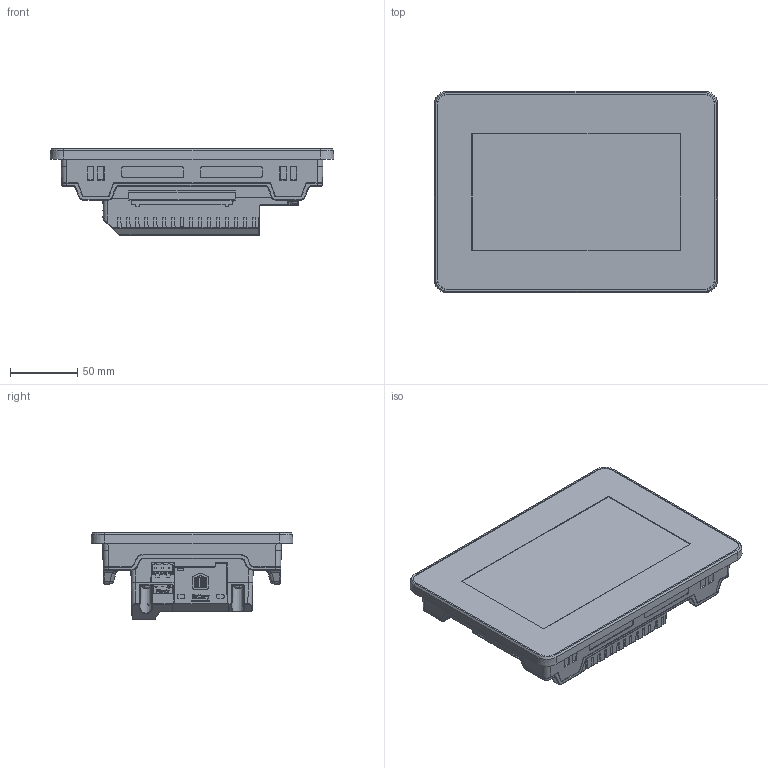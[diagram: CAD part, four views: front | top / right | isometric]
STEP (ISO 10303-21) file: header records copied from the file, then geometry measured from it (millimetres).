
FILE_DESCRIPTION (( 'STEP AP203' ), '1' );
FILE_NAME ('Unistream 7_3D.STEP', '2018-08-23T10:06:09', ( '' ), ( '' ), 'SwSTEP 2.0', 'SolidWorks 2017', '' );
FILE_SCHEMA (( 'CONFIG_CONTROL_DESIGN' ));
Products named in the file (1): Unistream 7_3D
Bounding box: 211.53 x 150.53 x 64.5 mm (x, y, z)
Volume: 1041566.2 mm3; surface area: 111900.8 mm2
Topology: 1 solids, 31 shells, 3235 faces, 8736 edges, 5705 vertices
Faces by surface type: plane 1884, cylinder 450, bspline 430, cone 392, sphere 46, torus 33
Entity records: 123675 total; most frequent: CARTESIAN_POINT 46794, ORIENTED_EDGE 17456, DIRECTION 13891, EDGE_CURVE 8728, VERTEX_POINT 5703, LINE 5497, VECTOR 5497, AXIS2_PLACEMENT_3D 4197
